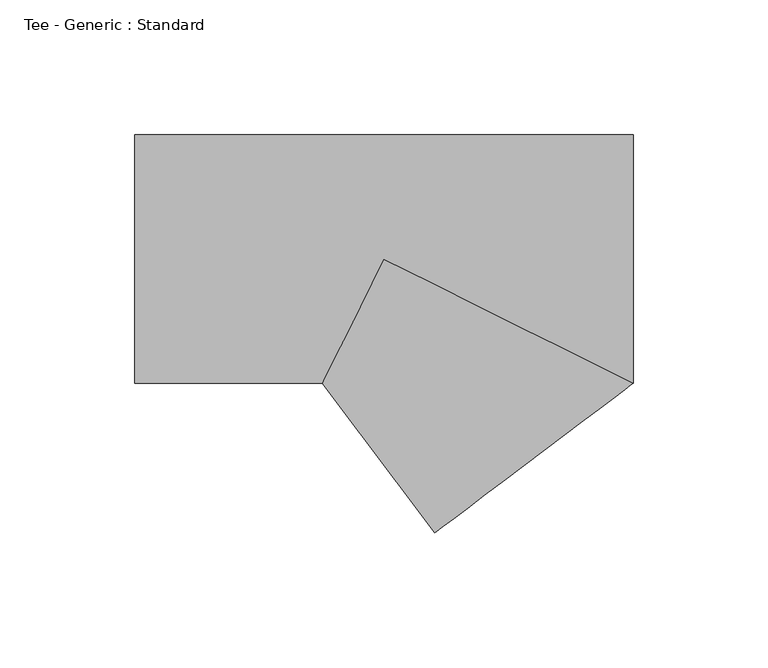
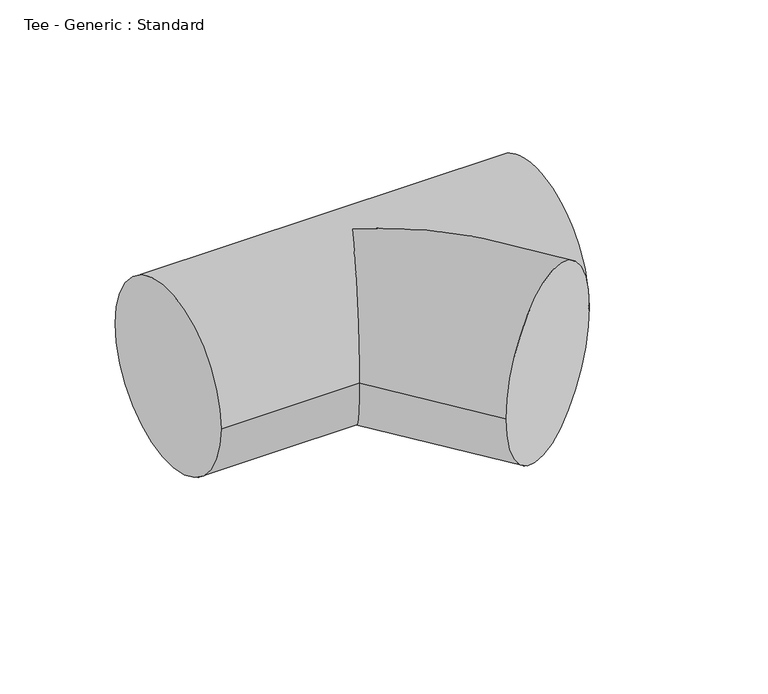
"""IFC4 building model written with IfcOpenShell, lengths in millimetres: pipe fitting geometry, Tee - Generic : Standard."""

from ifc_helpers import new_model, si_unit, frame, origin, place, context, project, spatial, circle_curve, ellipse_curve, source, transform, mapped, element, save
from ifc_brep_helpers import plane_surface, cylinder_surface, advanced_brep


def tee_generic_standard_6ef05a17(model_context):
    return source(origin(), model_context, "Body", "AdvancedBrep", [
        advanced_brep(
        [(-92.3236725, -46.0375, 0.0), (-92.3236725, 46.0375, 0.0), (92.3236725, -46.0375, 0.0), (92.3236725, 46.0375, 0.0), (-22.9567493, -46.0375, 0.0), (0.0, 0.0, 46.0375), (0.0, 0.0, -46.0375), (18.7829491, -101.4411787, 0.0)],
        [
            (0, 1, circle_curve(frame((-92.3236725, 0.0, 0.0), z_axis=(-1.0, 0.0, 0.0), x_axis=(0.0, 1.0, 0.0)), 46.0375)),
            (1, 0, circle_curve(frame((-92.3236725, 0.0, 0.0), z_axis=(-1.0, 0.0, 0.0), x_axis=(0.0, 1.0, 0.0)), 46.0375)),
            (2, 3, circle_curve(frame((92.3236725, 0.0, 0.0), z_axis=(1.0, 0.0, 0.0), x_axis=(0.0, 1.0, 0.0)), 46.0375)),
            (3, 2, circle_curve(frame((92.3236725, 0.0, 0.0), z_axis=(1.0, 0.0, 0.0), x_axis=(0.0, 1.0, 0.0)), 46.0375)),
            (0, 4),
            (4, 5, ellipse_curve(frame((0.0, 0.0, 0.0), z_axis=(-0.8949087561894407, 0.4462491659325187, 0.0), x_axis=(-0.44624916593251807, -0.8949087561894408, 0.0)), 51.4437921, 46.0375)),
            (5, 2, ellipse_curve(frame((0.0, 0.0, 0.0), z_axis=(0.44624916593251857, 0.8949087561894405, 0.0), x_axis=(-0.8949087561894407, 0.4462491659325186, 0.0)), 103.1654589, 46.0375)),
            (3, 1),
            (2, 6, ellipse_curve(frame((0.0, 0.0, 0.0), z_axis=(0.44624916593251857, 0.8949087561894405, 0.0), x_axis=(-0.8949087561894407, 0.4462491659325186, 0.0)), 103.1654589, 46.0375)),
            (6, 4, ellipse_curve(frame((0.0, 0.0, 0.0), z_axis=(-0.8949087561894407, 0.4462491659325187, 0.0), x_axis=(-0.44624916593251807, -0.8949087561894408, 0.0)), 51.4437921, 46.0375)),
            (7, 2, circle_curve(frame((55.5533108, -73.7393394, 0.0), z_axis=(0.6017233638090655, -0.7987045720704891, 0.0), x_axis=(0.7987045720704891, 0.6017233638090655, 0.0)), 46.0375)),
            (2, 7, circle_curve(frame((55.5533108, -73.7393394, 0.0), z_axis=(0.6017233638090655, -0.7987045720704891, 0.0), x_axis=(0.7987045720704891, 0.6017233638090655, 0.0)), 46.0375)),
            (4, 7),
        ],
        [
            plane_surface(frame((-92.3236725, 0.0, 0.0), z_axis=(-1.0, 0.0, 0.0), x_axis=(0.0, 0.0, 1.0))),
            plane_surface(frame((92.3236725, 0.0, 0.0), z_axis=(1.0, 0.0, 0.0), x_axis=(0.0, 0.0, 1.0))),
            cylinder_surface(frame((-92.3236725, 0.0, 0.0), z_axis=(-1.0, 0.0, 0.0), x_axis=(0.0, 1.0, 0.0)), 46.0375),
            plane_surface(frame((55.5533108, -73.7393394, 0.0), z_axis=(0.6017233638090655, -0.7987045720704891, 0.0), x_axis=(0.0, 0.0, 1.0))),
            cylinder_surface(frame((0.0, 0.0, 0.0), z_axis=(-0.6017233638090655, 0.7987045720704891, 0.0), x_axis=(0.7987045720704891, 0.6017233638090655, 0.0)), 46.0375),
        ],
        [
            (0, [[1, 2]]),
            (1, [[3, 4]]),
            (2, [[-1, 5, 6, 7, -4, 8]]),
            (2, [[-2, -8, -3, 9, 10, -5]]),
            (3, [[11, 12]]),
            (4, [[-12, -7, -6, 13]]),
            (4, [[-11, -13, -10, -9]]),
        ],
    ),
    ])


if __name__ == "__main__":
    model = new_model("IFC4")
    model_context = context("Model", 3, world=origin())
    ifc_project = project(units=[si_unit("LENGTHUNIT", "METRE", prefix="MILLI")], contexts=[model_context])
    site = spatial("IfcSite", under=ifc_project)
    building = spatial("IfcBuilding", under=site)
    placement = place(None, origin())
    tee_generic_standard_shape = tee_generic_standard_6ef05a17(model_context)
    element("IfcPipeFitting", 1, ObjectType="Tee - Generic : Standard", at=placement, inside=building, context=model_context, shape_type="MappedRepresentation", body=[
        mapped(tee_generic_standard_shape, transform((0.0, 0.0, 0.0), x_axis=(1.0, 0.0, 0.0), y_axis=(0.0, 1.0, 0.0), z_axis=(0.0, 0.0, 1.0))),
    ])
    save(model, "model.ifc")
